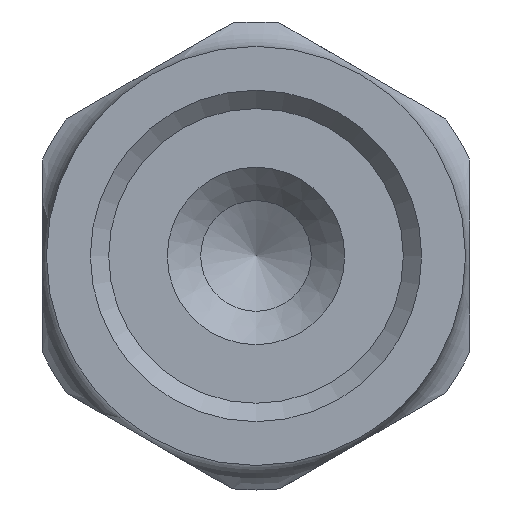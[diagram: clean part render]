
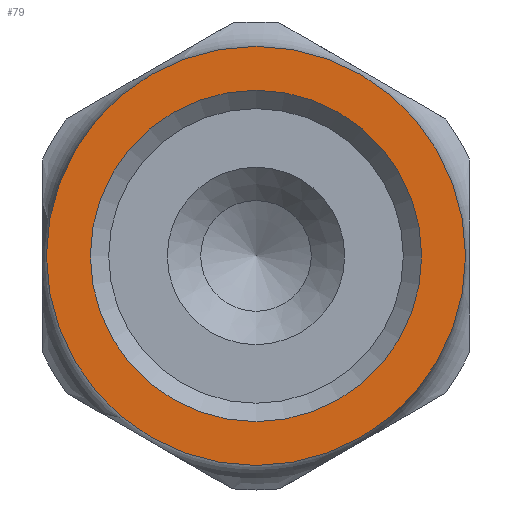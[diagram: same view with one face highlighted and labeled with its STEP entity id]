
A CAD part, left-side view. The second image highlights one B-rep face of the part: STEP entity #79.
In plain terms, the highlighted planar face has unit normal (-1, 0, 0).
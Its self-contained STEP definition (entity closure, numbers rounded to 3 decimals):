
#79 = ADVANCED_FACE( '', ( #127, #128 ), #129, .F. );
#127 = FACE_OUTER_BOUND( '', #231, .T. );
#128 = FACE_BOUND( '', #232, .T. );
#129 = PLANE( '', #233 );
#231 = EDGE_LOOP( '', ( #362 ) );
#232 = EDGE_LOOP( '', ( #363 ) );
#233 = AXIS2_PLACEMENT_3D( '', #364, #365, #366 );
#362 = ORIENTED_EDGE( '', *, *, #610, .F. );
#363 = ORIENTED_EDGE( '', *, *, #611, .F. );
#364 = CARTESIAN_POINT( '', ( 0., 0., 0. ) );
#365 = DIRECTION( '', ( 1., 0., 0. ) );
#366 = DIRECTION( '', ( 0., 0., -1. ) );
#610 = EDGE_CURVE( '', #699, #699, #700, .T. );
#611 = EDGE_CURVE( '', #701, #701, #702, .F. );
#699 = VERTEX_POINT( '', #965 );
#700 = CIRCLE( '', #966, 13.25 );
#701 = VERTEX_POINT( '', #967 );
#702 = CIRCLE( '', #968, 10.478 );
#965 = CARTESIAN_POINT( '', ( 0., 0., -13.25 ) );
#966 = AXIS2_PLACEMENT_3D( '', #1127, #1128, #1129 );
#967 = CARTESIAN_POINT( '', ( 0., 0., -10.478 ) );
#968 = AXIS2_PLACEMENT_3D( '', #1130, #1131, #1132 );
#1127 = CARTESIAN_POINT( '', ( 0., 0., 0. ) );
#1128 = DIRECTION( '', ( 1., 0., 0. ) );
#1129 = DIRECTION( '', ( 0., 0., -1. ) );
#1130 = CARTESIAN_POINT( '', ( 0., 0., 0. ) );
#1131 = DIRECTION( '', ( 1., 0., 0. ) );
#1132 = DIRECTION( '', ( 0., 0., -1. ) );
